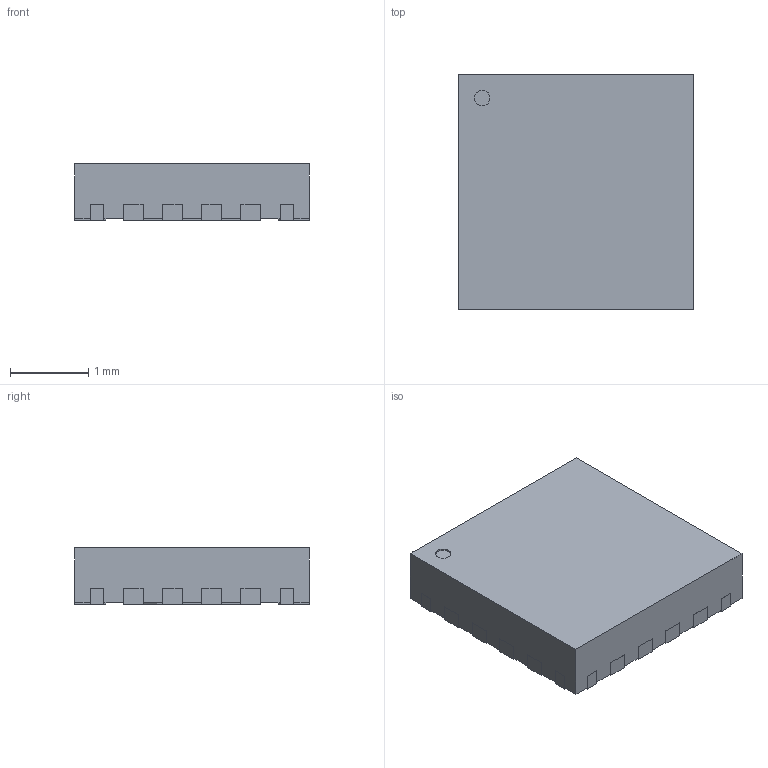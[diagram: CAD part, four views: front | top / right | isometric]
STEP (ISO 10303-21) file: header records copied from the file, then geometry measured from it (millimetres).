
FILE_DESCRIPTION (( 'STEP AP214' ), '1' );
FILE_NAME ('WQFN-20_L3.0-W3.0-P0.50-TL-EP1.4.STEP', '2022-03-16T07:44:05', ( '微软用户' ), ( '微软中国' ), 'SwSTEP 2.0', 'SolidWorks 2017', '' );
FILE_SCHEMA (( 'AUTOMOTIVE_DESIGN' ));
Length unit declared in the file: millimetre
Products named in the file (1): WQFN-20_L3.0-W3.0-P0.50-TL-EP1.4
Bounding box: 3 x 3 x 0.72 mm (x, y, z)
Volume: 6.4 mm3; surface area: 27.1 mm2
Topology: 1 solids, 1 shells, 246 faces, 705 edges, 470 vertices
Faces by surface type: plane 194, cylinder 38, bspline 14
Entity records: 10758 total; most frequent: CARTESIAN_POINT 2220, ORIENTED_EDGE 1410, DIRECTION 1219, EDGE_CURVE 705, VECTOR 601, LINE 601, VERTEX_POINT 470, AXIS2_PLACEMENT_3D 309
